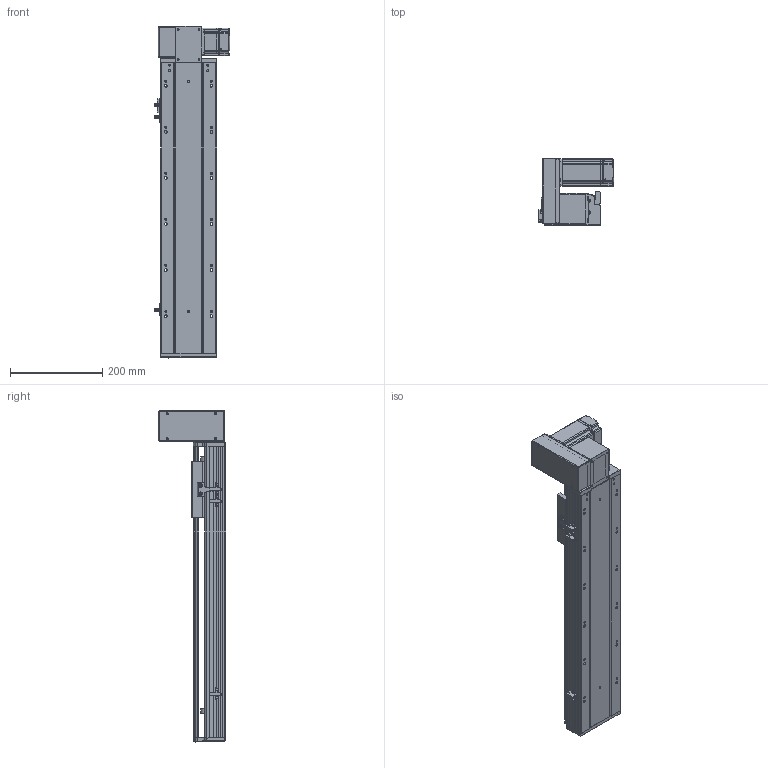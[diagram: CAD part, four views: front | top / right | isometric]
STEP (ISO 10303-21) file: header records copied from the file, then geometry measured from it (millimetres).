
FILE_DESCRIPTION (( 'STEP AP203' ), '1' );
FILE_NAME ('RY120-T-300-UL.SLDASM_400.step', '2021-03-01T05:35:13', ( '盈信电脑' ), ( '东莞市道滘镇水果街19号' ), 'SwSTEP 2.0', 'SolidWorks 2012', '' );
FILE_SCHEMA (( 'CONFIG_CONTROL_DESIGN' ));
Length unit declared in the file: millimetre
Products named in the file (18): RY120-T-300-UL倰第菁釱_400; RY120肮祭湍臏賑輸; RY120-T-300-UL倰第奻裔啣_400; RY120綴裔啣; RY120-T-300-UL.SLDASM_400; RY120-T蹟翐M4; 滅袉蝶18-10; RY120-T萇儂欶; RY120-T翋肮祭謫裔啣; RY120-T萇儂假蚾啣; 侂狟400W侜督萇儂; RY120-T主同步轮轴承压盖; 15; RY120-T翋肮祭盓傅釱; RY120外置感应片(140共用）; RY120-T肮祭湍揤踡輸2; RY120-T肮祭湍揤踡輸1; 覜茼ん672
Assembly tree (23 placements, depth 3):
  RY120-T-300-UL.SLDASM_400
    RY120-T-300-UL倰第菁釱_400
    RY120-T-300-UL倰第奻裔啣_400
    RY120肮祭湍臏賑輸
    RY120綴裔啣
    覜茼ん672  x3
    RY120外置感应片(140共用）
    RY120-T肮祭湍揤踡輸1
    RY120-T肮祭湍揤踡輸2
    RY120-T翋肮祭盓傅釱
    RY120-T萇儂假蚾啣
    侂狟400W侜督萇儂
      15
    RY120-T主同步轮轴承压盖
    滅袉蝶18-10  x2
    RY120-T萇儂欶
    RY120-T蹟翐M4  x4
    RY120-T翋肮祭謫裔啣
Bounding box: 164.2 x 146 x 721 mm (x, y, z)
Volume: 2301526.8 mm3; surface area: 830558.6 mm2
Topology: 23 solids, 23 shells, 2698 faces, 7348 edges, 4732 vertices
Faces by surface type: plane 1402, cylinder 996, cone 211, bspline 89
Entity records: 85680 total; most frequent: CARTESIAN_POINT 21568, ORIENTED_EDGE 13192, DIRECTION 12474, EDGE_CURVE 6596, VERTEX_POINT 4319, LINE 4184, VECTOR 4184, AXIS2_PLACEMENT_3D 4145
